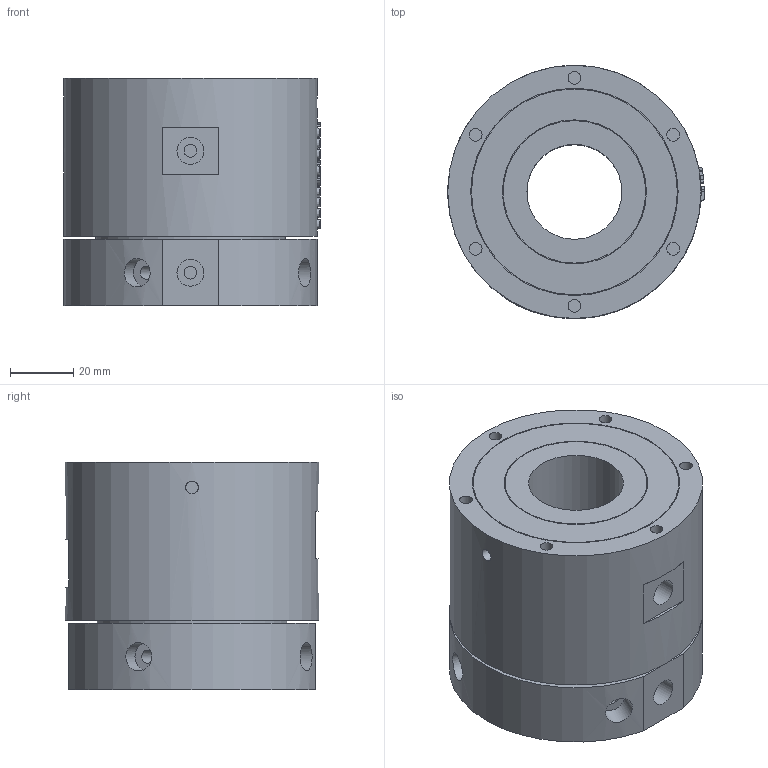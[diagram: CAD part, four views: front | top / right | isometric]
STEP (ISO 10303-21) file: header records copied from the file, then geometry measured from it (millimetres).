
FILE_DESCRIPTION(/* description */ (''),/* implementation_level */ '2;1');
FILE_NAME(/* name */ 'HQ0201D30.stp',/* time_stamp */ '2024-07-01T11:59:11+08:00',/* author */ (''),/* organization */ (''),/* preprocessor_version */ 'ST-DEVELOPER v16.7',/* originating_system */ 'SIEMENS PLM Software NX 12.0',/* authorisation */ '');
FILE_SCHEMA (('AUTOMOTIVE_DESIGN { 1 0 10303 214 3 1 1 1 }'));
Length unit declared in the file: millimetre
Products named in the file (1): 86130A48DBE8x92z
Bounding box: 81 x 80 x 72 mm (x, y, z)
Volume: 299718.3 mm3; surface area: 44730.7 mm2
Topology: 1 solids, 1 shells, 397 faces, 969 edges, 647 vertices
Faces by surface type: plane 161, extrusion 157, cylinder 52, bspline 27
Full cylindrical faces by diameter (mm): 4 x14, 4.2 x4, 4.3 x2, 7 x4, 8.5 x4, 9 x4, 30 x1, 45 x1, 45.5 x1, 60 x1, 65 x1, 65.5 x1, 80 x1
Entity records: 17297 total; most frequent: CARTESIAN_POINT 8791, ORIENTED_EDGE 1836, DIRECTION 1255, EDGE_CURVE 918, VERTEX_POINT 642, B_SPLINE_CURVE_WITH_KNOTS 548, VECTOR 541, EDGE_LOOP 526
